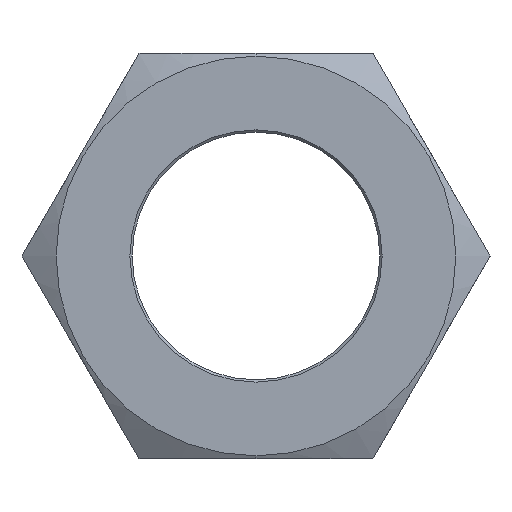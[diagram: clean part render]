
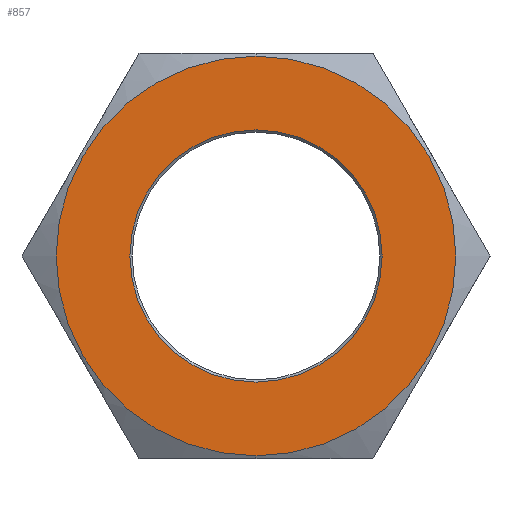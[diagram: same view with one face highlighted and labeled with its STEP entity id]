
A CAD part, left-side view. The second image highlights one B-rep face of the part: STEP entity #857.
In plain terms, the highlighted planar face has unit normal (-1, 0, 0) as drawn and (0, 0, 1) by its records, which use the part's own axes.
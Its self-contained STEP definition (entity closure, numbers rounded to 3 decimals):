
#141=CARTESIAN_POINT('',(17.75,0.0,10.25));
#142=VERTEX_POINT('',#141);
#151=CARTESIAN_POINT('',(-17.75,0.,10.25));
#152=VERTEX_POINT('',#151);
#153=CARTESIAN_POINT('',(0.,0.0,10.25));
#154=DIRECTION('',(0.0,0.0,1.0));
#155=DIRECTION('',(1.0,0.0,0.0));
#156=AXIS2_PLACEMENT_3D('',#153,#154,#155);
#157=CIRCLE('',#156,17.75);
#158=EDGE_CURVE('',#152,#142,#157,.T.);
#471=CARTESIAN_POINT('',(0.,11.2,10.25));
#472=VERTEX_POINT('',#471);
#480=CARTESIAN_POINT('',(0.,-11.2,10.25));
#481=VERTEX_POINT('',#480);
#488=CARTESIAN_POINT('',(0.,0.,10.25));
#489=DIRECTION('',(0.0,0.0,-1.0));
#490=DIRECTION('',(0.0,1.0,0.0));
#491=AXIS2_PLACEMENT_3D('',#488,#489,#490);
#492=CIRCLE('',#491,11.2);
#493=EDGE_CURVE('',#472,#481,#492,.T.);
#504=CARTESIAN_POINT('',(0.,0.,10.25));
#505=DIRECTION('',(0.0,0.0,-1.0));
#506=DIRECTION('',(0.0,1.0,0.0));
#507=AXIS2_PLACEMENT_3D('',#504,#505,#506);
#508=CIRCLE('',#507,11.2);
#509=EDGE_CURVE('',#481,#472,#508,.T.);
#728=CARTESIAN_POINT('',(0.,0.0,10.25));
#729=DIRECTION('',(0.0,0.0,1.0));
#730=DIRECTION('',(1.0,0.0,0.0));
#731=AXIS2_PLACEMENT_3D('',#728,#729,#730);
#732=CIRCLE('',#731,17.75);
#733=EDGE_CURVE('',#142,#152,#732,.T.);
#844=CARTESIAN_POINT('',(0.,0.,10.25));
#845=DIRECTION('',(0.0,0.0,1.0));
#846=DIRECTION('',(1.0,0.0,0.0));
#847=AXIS2_PLACEMENT_3D('',#844,#845,#846);
#848=PLANE('',#847);
#849=ORIENTED_EDGE('',*,*,#733,.T.);
#850=ORIENTED_EDGE('',*,*,#158,.T.);
#851=EDGE_LOOP('',(#849,#850));
#852=FACE_OUTER_BOUND('',#851,.T.);
#853=ORIENTED_EDGE('',*,*,#493,.T.);
#854=ORIENTED_EDGE('',*,*,#509,.T.);
#855=EDGE_LOOP('',(#853,#854));
#856=FACE_BOUND('',#855,.T.);
#857=ADVANCED_FACE('',(#852,#856),#848,.T.);
